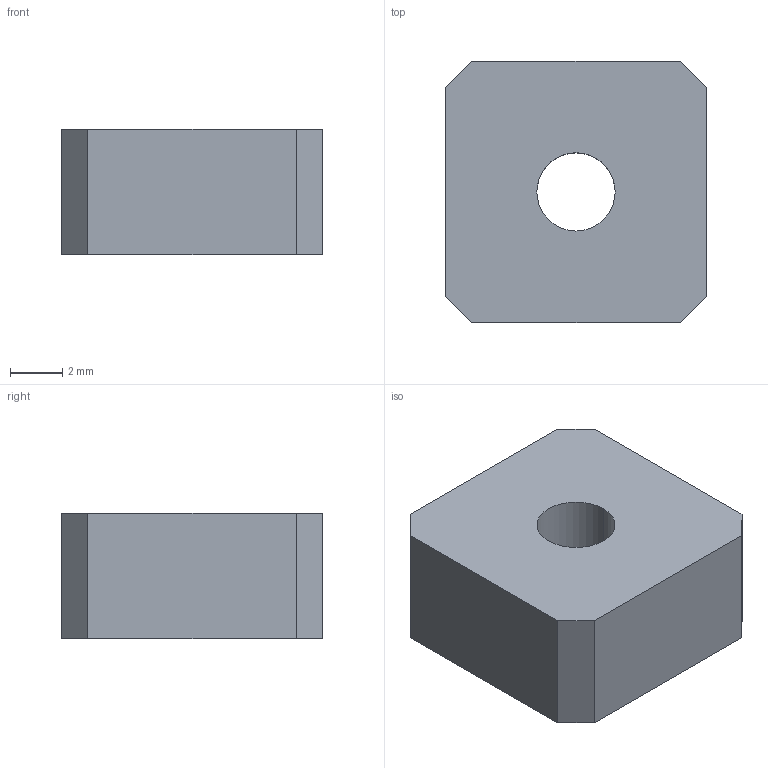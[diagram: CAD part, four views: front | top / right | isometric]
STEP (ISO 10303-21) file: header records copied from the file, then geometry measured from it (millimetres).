
FILE_DESCRIPTION (( 'STEP AP203' ), '1' );
FILE_NAME ('5238.STEP', '2016-04-16T12:29:18', ( '' ), ( '' ), 'SwSTEP 2.0', 'SolidWorks 2014', '' );
FILE_SCHEMA (( 'CONFIG_CONTROL_DESIGN' ));
Length unit declared in the file: millimetre
Products named in the file (1): 5238
Bounding box: 10 x 10 x 4.8 mm (x, y, z)
Volume: 436.5 mm3; surface area: 407.9 mm2
Topology: 1 solids, 1 shells, 12 faces, 30 edges, 20 vertices
Faces by surface type: plane 10, cylinder 2
Entity records: 439 total; most frequent: CARTESIAN_POINT 63, DIRECTION 60, ORIENTED_EDGE 60, EDGE_CURVE 30, LINE 26, VECTOR 26, VERTEX_POINT 20, AXIS2_PLACEMENT_3D 17
